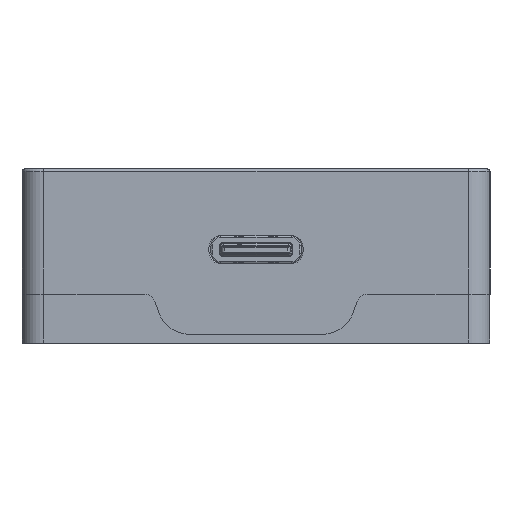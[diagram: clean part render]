
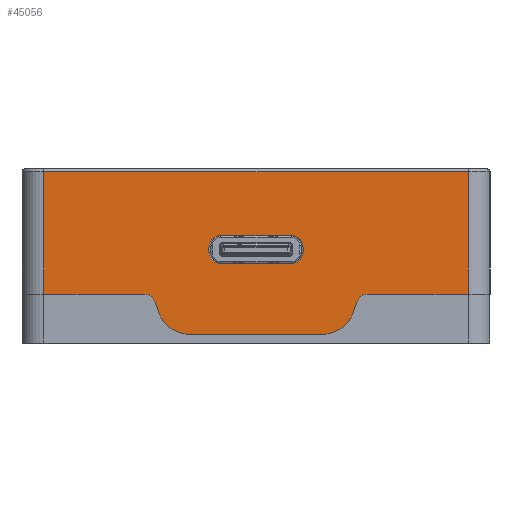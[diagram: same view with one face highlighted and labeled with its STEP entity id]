
A CAD part, front view. The second image highlights one B-rep face of the part: STEP entity #45056.
In plain terms, the highlighted planar face has unit normal (0, -1, 0).
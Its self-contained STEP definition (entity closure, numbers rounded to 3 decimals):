
#1923=FACE_BOUND('',#8127,.T.);
#3135=CIRCLE('',#48476,1.08);
#3136=CIRCLE('',#48479,1.08);
#3137=CIRCLE('',#48482,1.08);
#3138=CIRCLE('',#48485,1.08);
#3238=CIRCLE('',#48662,1.);
#3240=CIRCLE('',#48666,3.);
#3242=CIRCLE('',#48670,3.);
#3244=CIRCLE('',#48674,1.);
#5593=FACE_OUTER_BOUND('',#8126,.T.);
#8126=EDGE_LOOP('',(#37439,#37440,#37441,#37442,#37443,#37444,#37445,#37446,
#37447,#37448,#37449,#37450));
#8127=EDGE_LOOP('',(#37451,#37452,#37453,#37454,#37455,#37456,#37457,#37458));
#11627=LINE('',#87077,#15647);
#11639=LINE('',#87146,#15659);
#11710=LINE('',#87355,#15730);
#11713=LINE('',#87363,#15733);
#11715=LINE('',#87370,#15735);
#11718=LINE('',#87377,#15738);
#11871=LINE('',#87956,#15891);
#11875=LINE('',#87968,#15895);
#11879=LINE('',#87980,#15899);
#11883=LINE('',#87992,#15903);
#11907=LINE('',#88062,#15927);
#11940=LINE('',#88129,#15960);
#15647=VECTOR('',#58381,10.);
#15659=VECTOR('',#58463,10.);
#15730=VECTOR('',#58662,10.);
#15733=VECTOR('',#58671,10.);
#15735=VECTOR('',#58679,10.);
#15738=VECTOR('',#58688,10.);
#15891=VECTOR('',#59187,10.);
#15895=VECTOR('',#59199,10.);
#15899=VECTOR('',#59211,10.);
#15903=VECTOR('',#59223,10.);
#15927=VECTOR('',#59299,10.);
#15960=VECTOR('',#59400,10.);
#19641=VERTEX_POINT('',#87067);
#19643=VERTEX_POINT('',#87073);
#19666=VERTEX_POINT('',#87144);
#19738=VERTEX_POINT('',#87347);
#19739=VERTEX_POINT('',#87349);
#19740=VERTEX_POINT('',#87353);
#19741=VERTEX_POINT('',#87357);
#19742=VERTEX_POINT('',#87361);
#19743=VERTEX_POINT('',#87365);
#19744=VERTEX_POINT('',#87369);
#19745=VERTEX_POINT('',#87373);
#19918=VERTEX_POINT('',#87930);
#19930=VERTEX_POINT('',#87954);
#19931=VERTEX_POINT('',#87958);
#19933=VERTEX_POINT('',#87964);
#19935=VERTEX_POINT('',#87970);
#19937=VERTEX_POINT('',#87976);
#19939=VERTEX_POINT('',#87982);
#19941=VERTEX_POINT('',#87988);
#19943=VERTEX_POINT('',#87994);
#25406=EDGE_CURVE('',#19641,#19643,#11627,.T.);
#25441=EDGE_CURVE('',#19641,#19666,#11639,.T.);
#25541=EDGE_CURVE('',#19739,#19738,#3135,.T.);
#25544=EDGE_CURVE('',#19738,#19740,#11710,.T.);
#25546=EDGE_CURVE('',#19740,#19741,#3136,.T.);
#25548=EDGE_CURVE('',#19741,#19742,#11713,.T.);
#25550=EDGE_CURVE('',#19742,#19743,#3137,.T.);
#25551=EDGE_CURVE('',#19744,#19739,#11715,.T.);
#25553=EDGE_CURVE('',#19745,#19744,#3138,.T.);
#25555=EDGE_CURVE('',#19743,#19745,#11718,.T.);
#25810=EDGE_CURVE('',#19918,#19930,#11871,.T.);
#25813=EDGE_CURVE('',#19931,#19918,#3238,.T.);
#25816=EDGE_CURVE('',#19933,#19931,#11875,.T.);
#25819=EDGE_CURVE('',#19935,#19933,#3240,.T.);
#25822=EDGE_CURVE('',#19937,#19935,#11879,.T.);
#25825=EDGE_CURVE('',#19939,#19937,#3242,.T.);
#25828=EDGE_CURVE('',#19941,#19939,#11883,.T.);
#25831=EDGE_CURVE('',#19943,#19941,#3244,.T.);
#25864=EDGE_CURVE('',#19666,#19943,#11907,.T.);
#25897=EDGE_CURVE('',#19643,#19930,#11940,.T.);
#37439=ORIENTED_EDGE('',*,*,#25406,.F.);
#37440=ORIENTED_EDGE('',*,*,#25441,.T.);
#37441=ORIENTED_EDGE('',*,*,#25864,.T.);
#37442=ORIENTED_EDGE('',*,*,#25831,.T.);
#37443=ORIENTED_EDGE('',*,*,#25828,.T.);
#37444=ORIENTED_EDGE('',*,*,#25825,.T.);
#37445=ORIENTED_EDGE('',*,*,#25822,.T.);
#37446=ORIENTED_EDGE('',*,*,#25819,.T.);
#37447=ORIENTED_EDGE('',*,*,#25816,.T.);
#37448=ORIENTED_EDGE('',*,*,#25813,.T.);
#37449=ORIENTED_EDGE('',*,*,#25810,.T.);
#37450=ORIENTED_EDGE('',*,*,#25897,.F.);
#37451=ORIENTED_EDGE('',*,*,#25550,.T.);
#37452=ORIENTED_EDGE('',*,*,#25555,.T.);
#37453=ORIENTED_EDGE('',*,*,#25553,.T.);
#37454=ORIENTED_EDGE('',*,*,#25551,.T.);
#37455=ORIENTED_EDGE('',*,*,#25541,.T.);
#37456=ORIENTED_EDGE('',*,*,#25544,.T.);
#37457=ORIENTED_EDGE('',*,*,#25546,.T.);
#37458=ORIENTED_EDGE('',*,*,#25548,.T.);
#40511=PLANE('',#48732);
#45056=ADVANCED_FACE('',(#5593,#1923),#40511,.T.);
#48476=AXIS2_PLACEMENT_3D('',#87350,#58656,#58657);
#48479=AXIS2_PLACEMENT_3D('',#87359,#58666,#58667);
#48482=AXIS2_PLACEMENT_3D('',#87367,#58675,#58676);
#48485=AXIS2_PLACEMENT_3D('',#87374,#58683,#58684);
#48662=AXIS2_PLACEMENT_3D('',#87962,#59193,#59194);
#48666=AXIS2_PLACEMENT_3D('',#87974,#59205,#59206);
#48670=AXIS2_PLACEMENT_3D('',#87986,#59217,#59218);
#48674=AXIS2_PLACEMENT_3D('',#87998,#59229,#59230);
#48732=AXIS2_PLACEMENT_3D('',#88130,#59401,#59402);
#58381=DIRECTION('',(1.,0.,0.));
#58463=DIRECTION('',(0.,0.,-1.));
#58656=DIRECTION('center_axis',(0.,1.,0.));
#58657=DIRECTION('ref_axis',(-1.,0.,0.));
#58662=DIRECTION('',(0.,0.,1.));
#58666=DIRECTION('center_axis',(0.,1.,0.));
#58667=DIRECTION('ref_axis',(0.,0.,
1.));
#58671=DIRECTION('',(1.,0.,0.));
#58675=DIRECTION('center_axis',(0.,1.,0.));
#58676=DIRECTION('ref_axis',(1.,0.,0.));
#58679=DIRECTION('',(-1.,0.,0.));
#58683=DIRECTION('center_axis',(0.,1.,0.));
#58684=DIRECTION('ref_axis',(0.,0.,
-1.));
#58688=DIRECTION('',(0.,0.,-1.));
#59187=DIRECTION('',(1.,0.,0.));
#59193=DIRECTION('center_axis',(0.,1.,0.));
#59194=DIRECTION('ref_axis',(-0.94,0.,0.342));
#59199=DIRECTION('',(0.342,0.,0.94));
#59205=DIRECTION('center_axis',(0.,-1.,0.));
#59206=DIRECTION('ref_axis',(0.,0.,
-1.));
#59211=DIRECTION('',(1.,0.,0.));
#59217=DIRECTION('center_axis',(0.,-1.,0.));
#59218=DIRECTION('ref_axis',(-0.94,0.,-0.342));
#59223=DIRECTION('',(0.342,0.,-0.94));
#59229=DIRECTION('center_axis',(0.,1.,0.));
#59230=DIRECTION('ref_axis',(0.,0.,1.));
#59299=DIRECTION('',(1.,0.,0.));
#59400=DIRECTION('',(0.,0.,-1.));
#59401=DIRECTION('center_axis',(0.,-1.,0.));
#59402=DIRECTION('ref_axis',(1.,0.,0.));
#87067=CARTESIAN_POINT('',(-20.757,-20.577,-3.512));
#87073=CARTESIAN_POINT('',(18.243,-20.577,-3.512));
#87077=CARTESIAN_POINT('',(-11.007,-20.577,-3.512));
#87144=CARTESIAN_POINT('',(-20.757,-20.577,-14.762));
#87146=CARTESIAN_POINT('',(-20.757,-20.577,-13.762));
#87347=CARTESIAN_POINT('',(-5.577,-20.577,-10.882));
#87349=CARTESIAN_POINT('',(-4.497,-20.577,-11.962));
#87350=CARTESIAN_POINT('Origin',(-4.497,-20.577,-10.882));
#87353=CARTESIAN_POINT('',(-5.577,-20.577,-10.482));
#87355=CARTESIAN_POINT('',(-5.577,-20.577,-12.322));
#87357=CARTESIAN_POINT('',(-4.497,-20.577,-9.402));
#87359=CARTESIAN_POINT('Origin',(-4.497,-20.577,-10.482));
#87361=CARTESIAN_POINT('',(1.983,-20.577,-9.402));
#87363=CARTESIAN_POINT('',(-12.627,-20.577,-9.402));
#87365=CARTESIAN_POINT('',(3.063,-20.577,-10.482));
#87367=CARTESIAN_POINT('Origin',(1.983,-20.577,-10.482));
#87369=CARTESIAN_POINT('',(1.983,-20.577,-11.962));
#87370=CARTESIAN_POINT('',(-9.387,-20.577,-11.962));
#87373=CARTESIAN_POINT('',(3.063,-20.577,-10.882));
#87374=CARTESIAN_POINT('Origin',(1.983,-20.577,-10.882));
#87377=CARTESIAN_POINT('',(3.063,-20.577,-12.122));
#87930=CARTESIAN_POINT('',(8.991,-20.577,-14.762));
#87954=CARTESIAN_POINT('',(18.243,-20.577,-14.762));
#87956=CARTESIAN_POINT('',(8.991,-20.577,-14.762));
#87958=CARTESIAN_POINT('',(8.051,-20.577,-15.419));
#87962=CARTESIAN_POINT('Origin',(8.991,-20.577,-15.762));
#87964=CARTESIAN_POINT('',(7.662,-20.577,-16.488));
#87968=CARTESIAN_POINT('',(7.662,-20.577,-16.488));
#87970=CARTESIAN_POINT('',(4.843,-20.577,-18.462));
#87974=CARTESIAN_POINT('Origin',(4.843,-20.577,-15.462));
#87976=CARTESIAN_POINT('',(-7.356,-20.577,-18.462));
#87980=CARTESIAN_POINT('',(-7.356,-20.577,-18.462));
#87982=CARTESIAN_POINT('',(-10.175,-20.577,-16.488));
#87986=CARTESIAN_POINT('Origin',(-7.356,-20.577,-15.462));
#87988=CARTESIAN_POINT('',(-10.564,-20.577,-15.419));
#87992=CARTESIAN_POINT('',(-10.564,-20.577,-15.419));
#87994=CARTESIAN_POINT('',(-11.504,-20.577,-14.762));
#87998=CARTESIAN_POINT('Origin',(-11.504,-20.577,-15.762));
#88062=CARTESIAN_POINT('',(-20.757,-20.577,-14.762));
#88129=CARTESIAN_POINT('',(18.243,-20.577,-13.762));
#88130=CARTESIAN_POINT('Origin',(-20.757,-20.577,-13.762));
